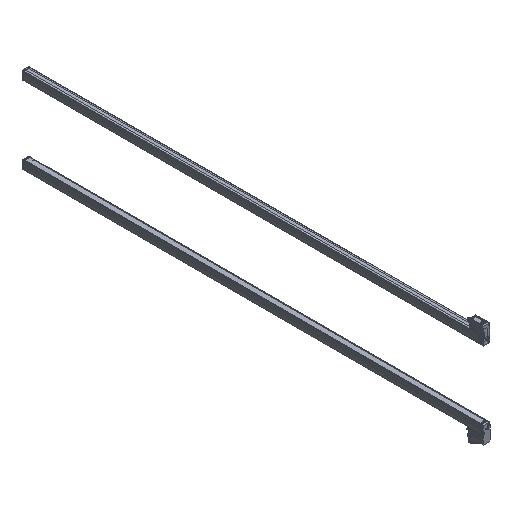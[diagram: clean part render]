
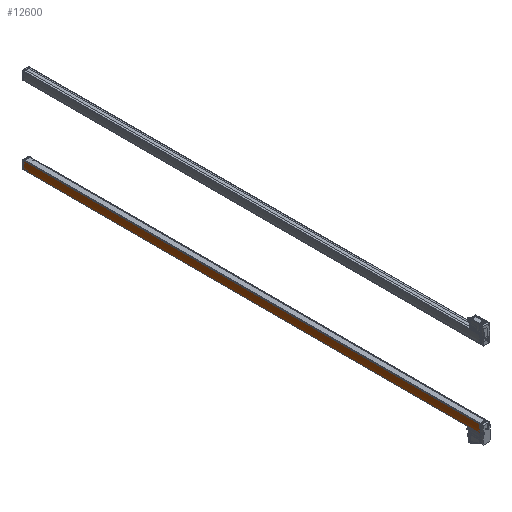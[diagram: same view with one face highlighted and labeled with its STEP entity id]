
A CAD part, isometric view. The second image highlights one B-rep face of the part: STEP entity #12600.
In plain terms, the highlighted cylindrical face has radius 250 mm (diameter 500 mm), a partial arc.
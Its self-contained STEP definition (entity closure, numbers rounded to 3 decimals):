
#11678=CYLINDRICAL_SURFACE('',#79139,250.);
#12600=ADVANCED_FACE('',(#18549),#11678,.T.);
#18549=FACE_OUTER_BOUND('',#22189,.T.);
#22189=EDGE_LOOP('',(#29285,#29286,#29287,#29288));
#26616=CIRCLE('',#79049,250.);
#26663=CIRCLE('',#79138,250.);
#29285=ORIENTED_EDGE('',*,*,#56790,.T.);
#29286=ORIENTED_EDGE('',*,*,#56914,.F.);
#29287=ORIENTED_EDGE('',*,*,#56915,.T.);
#29288=ORIENTED_EDGE('',*,*,#56912,.F.);
#49990=VERTEX_POINT('',#104094);
#49991=VERTEX_POINT('',#104096);
#50072=VERTEX_POINT('',#104340);
#50073=VERTEX_POINT('',#104344);
#56790=EDGE_CURVE('',#49991,#49990,#26616,.T.);
#56912=EDGE_CURVE('',#49991,#50072,#67318,.T.);
#56914=EDGE_CURVE('',#50073,#49990,#67319,.T.);
#56915=EDGE_CURVE('',#50073,#50072,#26663,.T.);
#67318=LINE('',#104339,#73178);
#67319=LINE('',#104343,#73179);
#73178=VECTOR('',#85629,1.);
#73179=VECTOR('',#85634,1.);
#79049=AXIS2_PLACEMENT_3D('',#104095,#85379,#85380);
#79138=AXIS2_PLACEMENT_3D('',#104345,#85635,#85636);
#79139=AXIS2_PLACEMENT_3D('',#104346,#85637,#85638);
#85379=DIRECTION('',(0.,0.,1.));
#85380=DIRECTION('',(-0.998,0.067,0.));
#85629=DIRECTION('',(0.,0.,1.));
#85634=DIRECTION('',(0.,0.,-1.));
#85635=DIRECTION('',(0.,0.,-1.));
#85636=DIRECTION('',(-0.998,0.067,0.));
#85637=DIRECTION('',(0.,0.,-1.));
#85638=DIRECTION('',(0.998,-0.067,0.));
#104094=CARTESIAN_POINT('',(13.731,16.86,-1922.));
#104095=CARTESIAN_POINT('',(-235.7,0.,-1922.));
#104096=CARTESIAN_POINT('',(13.793,-15.907,-1922.));
#104339=CARTESIAN_POINT('',(13.793,-15.907,-452.));
#104340=CARTESIAN_POINT('',(13.793,-15.907,0.));
#104343=CARTESIAN_POINT('',(13.731,16.86,0.));
#104344=CARTESIAN_POINT('',(13.731,16.86,0.));
#104345=CARTESIAN_POINT('',(-235.7,0.,0.));
#104346=CARTESIAN_POINT('',(-235.7,0.,0.));
